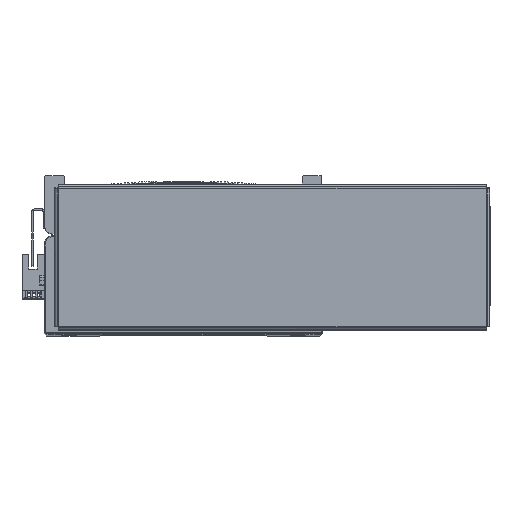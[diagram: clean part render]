
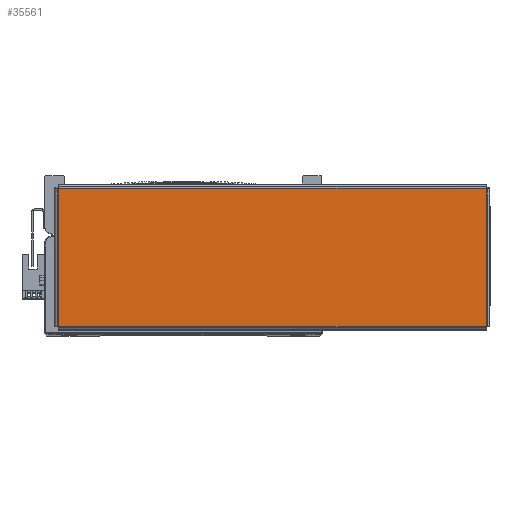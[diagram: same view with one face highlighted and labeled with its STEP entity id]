
A CAD part, top view. The second image highlights one B-rep face of the part: STEP entity #35561.
In plain terms, the highlighted planar face has unit normal (0, 0, 1) as drawn and (0, -1, 0) by its records, which use the part's own axes.
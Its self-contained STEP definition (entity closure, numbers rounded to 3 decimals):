
#4776 = EDGE_CURVE ( 'NONE', #7553, #7570, #30566, .T. ) ;
#4785 = EDGE_CURVE ( 'NONE', #7633, #7631, #30590, .T. ) ;
#4797 = EDGE_CURVE ( 'NONE', #7570, #7633, #30596, .T. ) ;
#4811 = EDGE_CURVE ( 'NONE', #7631, #7553, #30599, .T. ) ;
#7553 = VERTEX_POINT ( 'NONE', #48828 ) ;
#7570 = VERTEX_POINT ( 'NONE', #48806 ) ;
#7631 = VERTEX_POINT ( 'NONE', #48877 ) ;
#7633 = VERTEX_POINT ( 'NONE', #48847 ) ;
#11184 = ORIENTED_EDGE ( 'NONE', *, *, #4797, .T. ) ;
#11211 = ORIENTED_EDGE ( 'NONE', *, *, #4811, .T. ) ;
#11228 = ORIENTED_EDGE ( 'NONE', *, *, #4785, .T. ) ;
#11233 = ORIENTED_EDGE ( 'NONE', *, *, #4776, .T. ) ;
#14462 = EDGE_LOOP ( 'NONE', ( #11233, #11184, #11228, #11211 ) ) ;
#30543 = VECTOR ( 'NONE', #31855, 1000. ) ;
#30566 = LINE ( 'NONE', #31785, #30543 ) ;
#30590 = LINE ( 'NONE', #31825, #30622 ) ;
#30596 = LINE ( 'NONE', #31878, #30625 ) ;
#30599 = LINE ( 'NONE', #31913, #30638 ) ;
#30622 = VECTOR ( 'NONE', #31836, 1000. ) ;
#30625 = VECTOR ( 'NONE', #31879, 1000. ) ;
#30638 = VECTOR ( 'NONE', #31929, 1000. ) ;
#31785 = CARTESIAN_POINT ( 'NONE',  ( 130.863, -1.5, -42.293 ) ) ;
#31825 = CARTESIAN_POINT ( 'NONE',  ( -130.863, -1.5, 42.293 ) ) ;
#31836 = DIRECTION ( 'NONE',  ( 0., 0., -1. ) ) ;
#31855 = DIRECTION ( 'NONE',  ( 0., 0., 1. ) ) ;
#31878 = CARTESIAN_POINT ( 'NONE',  ( 130.893, -1.5, 42.263 ) ) ;
#31879 = DIRECTION ( 'NONE',  ( -1., 0., 0. ) ) ;
#31913 = CARTESIAN_POINT ( 'NONE',  ( -130.893, -1.5, -42.263 ) ) ;
#31929 = DIRECTION ( 'NONE',  ( 1., 0., 0. ) ) ;
#34821 = AXIS2_PLACEMENT_3D ( 'NONE', #45373, #45374, #45400 ) ;
#35561 = ADVANCED_FACE ( 'NONE', ( #43858 ), #45382, .F. ) ;
#43858 = FACE_OUTER_BOUND ( 'NONE', #14462, .T. ) ;
#45373 = CARTESIAN_POINT ( 'NONE',  ( 0., -1.5, 0. ) ) ;
#45374 = DIRECTION ( 'NONE',  ( 0., 1., 0. ) ) ;
#45382 = PLANE ( 'NONE',  #34821 ) ;
#45400 = DIRECTION ( 'NONE',  ( 0., 0., 1. ) ) ;
#48806 = CARTESIAN_POINT ( 'NONE',  ( 130.863, -1.5, 42.263 ) ) ;
#48828 = CARTESIAN_POINT ( 'NONE',  ( 130.863, -1.5, -42.263 ) ) ;
#48847 = CARTESIAN_POINT ( 'NONE',  ( -130.863, -1.5, 42.263 ) ) ;
#48877 = CARTESIAN_POINT ( 'NONE',  ( -130.863, -1.5, -42.263 ) ) ;
